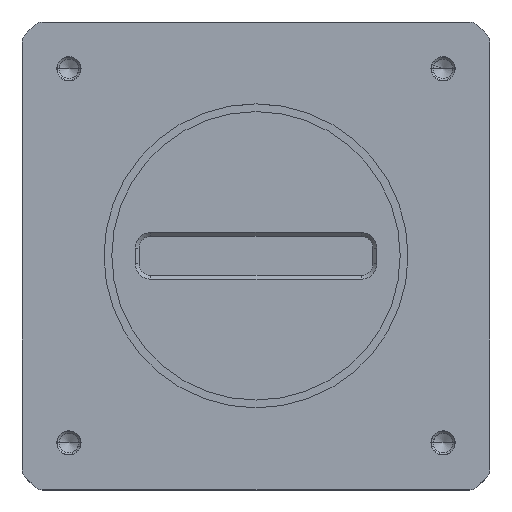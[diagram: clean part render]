
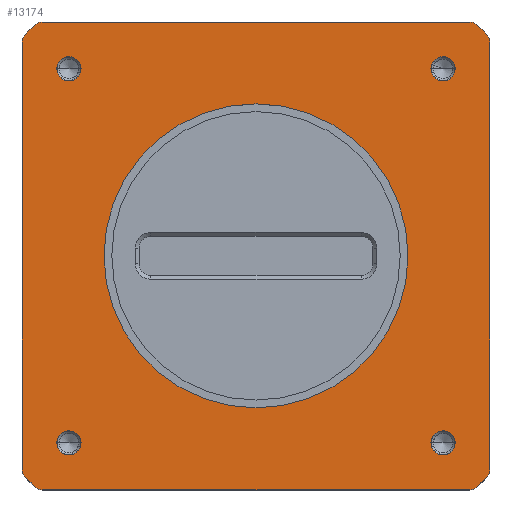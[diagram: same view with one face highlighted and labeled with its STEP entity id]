
A CAD part, top view. The second image highlights one B-rep face of the part: STEP entity #13174.
In plain terms, the highlighted planar face has unit normal (0, 0, 1).
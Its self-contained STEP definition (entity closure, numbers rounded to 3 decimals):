
#1043=CARTESIAN_POINT('',(28.5,-27.379,12.8));
#1044=DIRECTION('',(0.,0.,-1.));
#1045=DIRECTION('',(1.,0.,0.));
#1046=AXIS2_PLACEMENT_3D('',#1043,#1044,#1045);
#1048=DIRECTION('',(-0.707,-0.707,0.));
#1049=VECTOR('',#1048,1.586);
#1050=CARTESIAN_POINT('',(29.561,-28.439,12.8));
#1051=LINE('',#1050,#1049);
#1052=CARTESIAN_POINT('',(27.379,-28.5,12.8));
#1053=DIRECTION('',(0.,0.,-1.));
#1054=DIRECTION('',(0.707,-0.707,0.));
#1055=AXIS2_PLACEMENT_3D('',#1052,#1053,#1054);
#1057=DIRECTION('',(-1.,0.,0.));
#1058=VECTOR('',#1057,54.757);
#1059=CARTESIAN_POINT('',(27.379,-30.,12.8));
#1060=LINE('',#1059,#1058);
#1061=CARTESIAN_POINT('',(-27.379,-28.5,12.8));
#1062=DIRECTION('',(0.,0.,-1.));
#1063=DIRECTION('',(0.,-1.,0.));
#1064=AXIS2_PLACEMENT_3D('',#1061,#1062,#1063);
#1066=DIRECTION('',(-0.707,0.707,0.));
#1067=VECTOR('',#1066,1.586);
#1068=CARTESIAN_POINT('',(-28.439,-29.561,12.8));
#1069=LINE('',#1068,#1067);
#1070=CARTESIAN_POINT('',(-28.5,-27.379,12.8));
#1071=DIRECTION('',(0.,0.,-1.));
#1072=DIRECTION('',(-0.707,-0.707,0.));
#1073=AXIS2_PLACEMENT_3D('',#1070,#1071,#1072);
#1075=DIRECTION('',(0.,1.,0.));
#1076=VECTOR('',#1075,54.757);
#1077=CARTESIAN_POINT('',(-30.,-27.379,12.8));
#1078=LINE('',#1077,#1076);
#1079=CARTESIAN_POINT('',(-28.5,27.379,12.8));
#1080=DIRECTION('',(0.,0.,-1.));
#1081=DIRECTION('',(-1.,0.,0.));
#1082=AXIS2_PLACEMENT_3D('',#1079,#1080,#1081);
#1084=DIRECTION('',(0.707,0.707,0.));
#1085=VECTOR('',#1084,1.586);
#1086=CARTESIAN_POINT('',(-29.561,28.439,12.8));
#1087=LINE('',#1086,#1085);
#1088=CARTESIAN_POINT('',(-27.379,28.5,12.8));
#1089=DIRECTION('',(0.,0.,-1.));
#1090=DIRECTION('',(-0.707,0.707,0.));
#1091=AXIS2_PLACEMENT_3D('',#1088,#1089,#1090);
#1093=DIRECTION('',(1.,0.,0.));
#1094=VECTOR('',#1093,54.757);
#1095=CARTESIAN_POINT('',(-27.379,30.,12.8));
#1096=LINE('',#1095,#1094);
#1097=CARTESIAN_POINT('',(27.379,28.5,12.8));
#1098=DIRECTION('',(0.,0.,-1.));
#1099=DIRECTION('',(0.,1.,0.));
#1100=AXIS2_PLACEMENT_3D('',#1097,#1098,#1099);
#1102=DIRECTION('',(0.707,-0.707,0.));
#1103=VECTOR('',#1102,1.586);
#1104=CARTESIAN_POINT('',(28.439,29.561,12.8));
#1105=LINE('',#1104,#1103);
#1106=CARTESIAN_POINT('',(28.5,27.379,12.8));
#1107=DIRECTION('',(0.,0.,-1.));
#1108=DIRECTION('',(0.707,0.707,0.));
#1109=AXIS2_PLACEMENT_3D('',#1106,#1107,#1108);
#1111=DIRECTION('',(0.,-1.,0.));
#1112=VECTOR('',#1111,54.757);
#1113=CARTESIAN_POINT('',(30.,27.379,12.8));
#1114=LINE('',#1113,#1112);
#1115=CARTESIAN_POINT('',(0.,0.,12.8));
#1116=DIRECTION('',(0.,0.,1.));
#1117=DIRECTION('',(1.,0.,0.));
#1118=AXIS2_PLACEMENT_3D('',#1115,#1116,#1117);
#1120=CARTESIAN_POINT('',(0.,0.,12.8));
#1121=DIRECTION('',(0.,0.,1.));
#1122=DIRECTION('',(-1.,0.,0.));
#1123=AXIS2_PLACEMENT_3D('',#1120,#1121,#1122);
#1125=CARTESIAN_POINT('',(-24.,24.,12.8));
#1126=DIRECTION('',(0.,0.,-1.));
#1127=DIRECTION('',(-1.,0.,0.));
#1128=AXIS2_PLACEMENT_3D('',#1125,#1126,#1127);
#1135=CARTESIAN_POINT('',(-24.,24.,12.8));
#1136=DIRECTION('',(0.,0.,-1.));
#1137=DIRECTION('',(1.,0.,0.));
#1138=AXIS2_PLACEMENT_3D('',#1135,#1136,#1137);
#1179=CARTESIAN_POINT('',(24.,24.,12.8));
#1180=DIRECTION('',(0.,0.,-1.));
#1181=DIRECTION('',(-1.,0.,0.));
#1182=AXIS2_PLACEMENT_3D('',#1179,#1180,#1181);
#1189=CARTESIAN_POINT('',(24.,24.,12.8));
#1190=DIRECTION('',(0.,0.,-1.));
#1191=DIRECTION('',(1.,0.,0.));
#1192=AXIS2_PLACEMENT_3D('',#1189,#1190,#1191);
#1233=CARTESIAN_POINT('',(-24.,-24.,12.8));
#1234=DIRECTION('',(0.,0.,-1.));
#1235=DIRECTION('',(-1.,0.,0.));
#1236=AXIS2_PLACEMENT_3D('',#1233,#1234,#1235);
#1243=CARTESIAN_POINT('',(-24.,-24.,12.8));
#1244=DIRECTION('',(0.,0.,-1.));
#1245=DIRECTION('',(1.,0.,0.));
#1246=AXIS2_PLACEMENT_3D('',#1243,#1244,#1245);
#1287=CARTESIAN_POINT('',(24.,-24.,12.8));
#1288=DIRECTION('',(0.,0.,-1.));
#1289=DIRECTION('',(-1.,0.,0.));
#1290=AXIS2_PLACEMENT_3D('',#1287,#1288,#1289);
#1297=CARTESIAN_POINT('',(24.,-24.,12.8));
#1298=DIRECTION('',(0.,0.,-1.));
#1299=DIRECTION('',(1.,0.,0.));
#1300=AXIS2_PLACEMENT_3D('',#1297,#1298,#1299);
#9944=CARTESIAN_POINT('',(-29.561,28.439,12.8));
#9945=VERTEX_POINT('',#9944);
#9946=CARTESIAN_POINT('',(-30.,27.379,12.8));
#9947=VERTEX_POINT('',#9946);
#9948=CARTESIAN_POINT('',(-27.379,30.,12.8));
#9949=VERTEX_POINT('',#9948);
#9950=CARTESIAN_POINT('',(-28.439,29.561,12.8));
#9951=VERTEX_POINT('',#9950);
#9952=CARTESIAN_POINT('',(28.439,29.561,12.8));
#9953=VERTEX_POINT('',#9952);
#9954=CARTESIAN_POINT('',(27.379,30.,12.8));
#9955=VERTEX_POINT('',#9954);
#9956=CARTESIAN_POINT('',(30.,27.379,12.8));
#9957=VERTEX_POINT('',#9956);
#9958=CARTESIAN_POINT('',(29.561,28.439,12.8));
#9959=VERTEX_POINT('',#9958);
#9960=CARTESIAN_POINT('',(29.561,-28.439,12.8));
#9961=VERTEX_POINT('',#9960);
#9962=CARTESIAN_POINT('',(30.,-27.379,12.8));
#9963=VERTEX_POINT('',#9962);
#9964=CARTESIAN_POINT('',(27.379,-30.,12.8));
#9965=VERTEX_POINT('',#9964);
#9966=CARTESIAN_POINT('',(28.439,-29.561,12.8));
#9967=VERTEX_POINT('',#9966);
#9968=CARTESIAN_POINT('',(-28.439,-29.561,12.8));
#9969=VERTEX_POINT('',#9968);
#9970=CARTESIAN_POINT('',(-27.379,-30.,12.8));
#9971=VERTEX_POINT('',#9970);
#9972=CARTESIAN_POINT('',(-30.,-27.379,12.8));
#9973=VERTEX_POINT('',#9972);
#9974=CARTESIAN_POINT('',(-29.561,-28.439,12.8));
#9975=VERTEX_POINT('',#9974);
#9976=CARTESIAN_POINT('',(19.5,0.,12.8));
#9977=CARTESIAN_POINT('',(-19.5,0.,12.8));
#9978=VERTEX_POINT('',#9976);
#9979=VERTEX_POINT('',#9977);
#9980=CARTESIAN_POINT('',(-25.55,24.,12.8));
#9982=VERTEX_POINT('',#9980);
#9985=CARTESIAN_POINT('',(-22.45,24.,12.8));
#9987=VERTEX_POINT('',#9985);
#9994=CARTESIAN_POINT('',(22.45,24.,12.8));
#9996=VERTEX_POINT('',#9994);
#9999=CARTESIAN_POINT('',(25.55,24.,12.8));
#10001=VERTEX_POINT('',#9999);
#10008=CARTESIAN_POINT('',(-25.55,-24.,12.8));
#10010=VERTEX_POINT('',#10008);
#10013=CARTESIAN_POINT('',(-22.45,-24.,12.8));
#10015=VERTEX_POINT('',#10013);
#10022=CARTESIAN_POINT('',(22.45,-24.,12.8));
#10024=VERTEX_POINT('',#10022);
#10027=CARTESIAN_POINT('',(25.55,-24.,12.8));
#10029=VERTEX_POINT('',#10027);
#13121=CARTESIAN_POINT('',(0.,0.,12.8));
#13122=DIRECTION('',(0.,0.,1.));
#13123=DIRECTION('',(1.,0.,0.));
#13124=AXIS2_PLACEMENT_3D('',#13121,#13122,#13123);
#13125=PLANE('',#13124);
#13126=ORIENTED_EDGE('',*,*,#13020,.T.);
#13127=ORIENTED_EDGE('',*,*,#13034,.T.);
#13128=ORIENTED_EDGE('',*,*,#13048,.T.);
#13129=ORIENTED_EDGE('',*,*,#13062,.T.);
#13130=ORIENTED_EDGE('',*,*,#13088,.T.);
#13131=ORIENTED_EDGE('',*,*,#13102,.T.);
#13132=ORIENTED_EDGE('',*,*,#13115,.T.);
#13133=ORIENTED_EDGE('',*,*,#12857,.T.);
#13134=ORIENTED_EDGE('',*,*,#12884,.T.);
#13135=ORIENTED_EDGE('',*,*,#12898,.T.);
#13136=ORIENTED_EDGE('',*,*,#12912,.T.);
#13137=ORIENTED_EDGE('',*,*,#12926,.T.);
#13138=ORIENTED_EDGE('',*,*,#12952,.T.);
#13139=ORIENTED_EDGE('',*,*,#12966,.T.);
#13140=ORIENTED_EDGE('',*,*,#12980,.T.);
#13141=ORIENTED_EDGE('',*,*,#12994,.T.);
#13142=EDGE_LOOP('',(#13126,#13127,#13128,#13129,#13130,#13131,#13132,#13133,
#13134,#13135,#13136,#13137,#13138,#13139,#13140,#13141));
#13143=FACE_OUTER_BOUND('',#13142,.F.);
#13145=ORIENTED_EDGE('',*,*,#13144,.F.);
#13147=ORIENTED_EDGE('',*,*,#13146,.F.);
#13148=EDGE_LOOP('',(#13145,#13147));
#13149=FACE_BOUND('',#13148,.F.);
#13151=ORIENTED_EDGE('',*,*,#13150,.F.);
#13153=ORIENTED_EDGE('',*,*,#13152,.F.);
#13154=EDGE_LOOP('',(#13151,#13153));
#13155=FACE_BOUND('',#13154,.F.);
#13157=ORIENTED_EDGE('',*,*,#13156,.F.);
#13159=ORIENTED_EDGE('',*,*,#13158,.F.);
#13160=EDGE_LOOP('',(#13157,#13159));
#13161=FACE_BOUND('',#13160,.F.);
#13163=ORIENTED_EDGE('',*,*,#13162,.F.);
#13165=ORIENTED_EDGE('',*,*,#13164,.F.);
#13166=EDGE_LOOP('',(#13163,#13165));
#13167=FACE_BOUND('',#13166,.F.);
#13169=ORIENTED_EDGE('',*,*,#13168,.T.);
#13171=ORIENTED_EDGE('',*,*,#13170,.T.);
#13172=EDGE_LOOP('',(#13169,#13171));
#13173=FACE_BOUND('',#13172,.F.);
#13174=ADVANCED_FACE('',(#13143,#13149,#13155,#13161,#13167,#13173),#13125,.T.);
#1047=CIRCLE('',#1046,1.5);
#1056=CIRCLE('',#1055,1.5);
#1065=CIRCLE('',#1064,1.5);
#1074=CIRCLE('',#1073,1.5);
#1083=CIRCLE('',#1082,1.5);
#1092=CIRCLE('',#1091,1.5);
#1101=CIRCLE('',#1100,1.5);
#1110=CIRCLE('',#1109,1.5);
#1119=CIRCLE('',#1118,19.5);
#1124=CIRCLE('',#1123,19.5);
#1129=CIRCLE('',#1128,1.55);
#1139=CIRCLE('',#1138,1.55);
#1183=CIRCLE('',#1182,1.55);
#1193=CIRCLE('',#1192,1.55);
#1237=CIRCLE('',#1236,1.55);
#1247=CIRCLE('',#1246,1.55);
#1291=CIRCLE('',#1290,1.55);
#1301=CIRCLE('',#1300,1.55);
#12857=EDGE_CURVE('',#9973,#9947,#1078,.T.);
#12884=EDGE_CURVE('',#9947,#9945,#1083,.T.);
#12898=EDGE_CURVE('',#9945,#9951,#1087,.T.);
#12912=EDGE_CURVE('',#9951,#9949,#1092,.T.);
#12926=EDGE_CURVE('',#9949,#9955,#1096,.T.);
#12952=EDGE_CURVE('',#9955,#9953,#1101,.T.);
#12966=EDGE_CURVE('',#9953,#9959,#1105,.T.);
#12980=EDGE_CURVE('',#9959,#9957,#1110,.T.);
#12994=EDGE_CURVE('',#9957,#9963,#1114,.T.);
#13020=EDGE_CURVE('',#9963,#9961,#1047,.T.);
#13034=EDGE_CURVE('',#9961,#9967,#1051,.T.);
#13048=EDGE_CURVE('',#9967,#9965,#1056,.T.);
#13062=EDGE_CURVE('',#9965,#9971,#1060,.T.);
#13088=EDGE_CURVE('',#9971,#9969,#1065,.T.);
#13102=EDGE_CURVE('',#9969,#9975,#1069,.T.);
#13115=EDGE_CURVE('',#9975,#9973,#1074,.T.);
#13144=EDGE_CURVE('',#9982,#9987,#1129,.T.);
#13146=EDGE_CURVE('',#9987,#9982,#1139,.T.);
#13150=EDGE_CURVE('',#9996,#10001,#1183,.T.);
#13152=EDGE_CURVE('',#10001,#9996,#1193,.T.);
#13156=EDGE_CURVE('',#10010,#10015,#1237,.T.);
#13158=EDGE_CURVE('',#10015,#10010,#1247,.T.);
#13162=EDGE_CURVE('',#10024,#10029,#1291,.T.);
#13164=EDGE_CURVE('',#10029,#10024,#1301,.T.);
#13168=EDGE_CURVE('',#9978,#9979,#1119,.T.);
#13170=EDGE_CURVE('',#9979,#9978,#1124,.T.);
